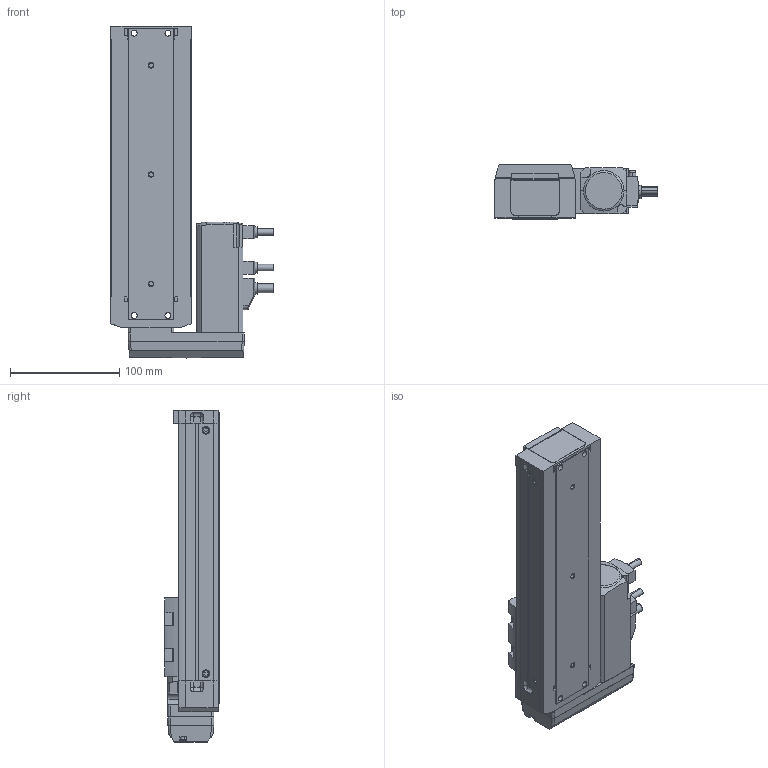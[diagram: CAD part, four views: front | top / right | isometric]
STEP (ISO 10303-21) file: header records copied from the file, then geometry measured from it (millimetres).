
FILE_DESCRIPTION (( 'STEP AP203' ), '1' );
FILE_NAME ('EZSM4LD015AZMK.step', '2015-06-30T19:15:11', ( 'om' ), ( 'Hewlett-Packard Company' ), 'SwSTEP 2.0', 'SolidWorks 2014', '' );
FILE_SCHEMA (( 'CONFIG_CONTROL_DESIGN' ));
Length unit declared in the file: millimetre
Products named in the file (4): EZSM4LD015AZMK_Motor; EZSM4LD015AZMK_BASE; EZSM4LD015AZMK_Table; EZSM4LD015AZMK
Assembly tree (3 placements, depth 2):
  EZSM4LD015AZMK
    EZSM4LD015AZMK_Motor
    EZSM4LD015AZMK_BASE
    EZSM4LD015AZMK_Table
Bounding box: 149 x 50 x 303.9 mm (x, y, z)
Volume: 1085559.5 mm3; surface area: 134375.8 mm2
Topology: 3 solids, 5 shells, 874 faces, 2213 edges, 1421 vertices
Faces by surface type: plane 552, cylinder 248, cone 52, torus 19, sphere 2, bspline 1
Entity records: 26961 total; most frequent: CARTESIAN_POINT 5192, DIRECTION 4450, ORIENTED_EDGE 4410, EDGE_CURVE 2205, LINE 1576, VECTOR 1576, AXIS2_PLACEMENT_3D 1437, VERTEX_POINT 1421
